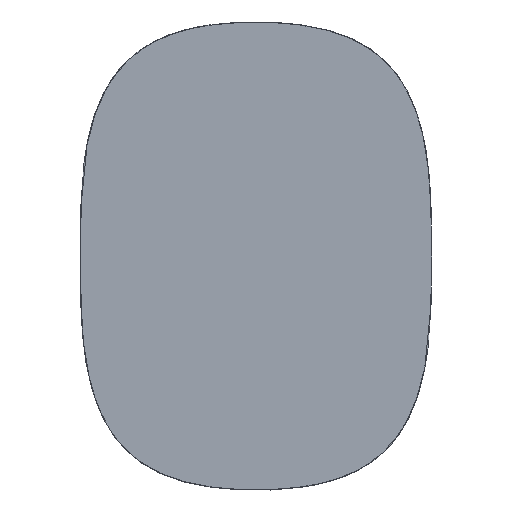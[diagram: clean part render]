
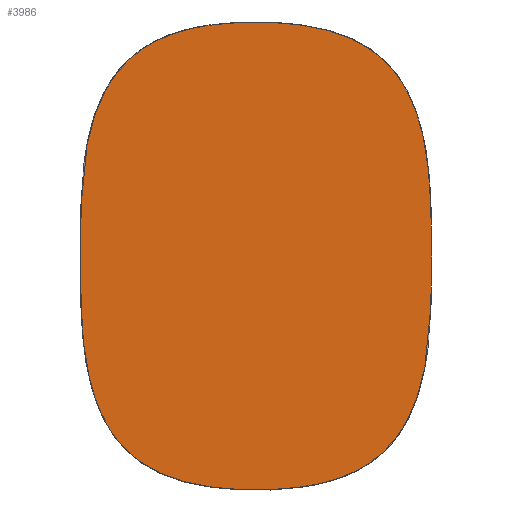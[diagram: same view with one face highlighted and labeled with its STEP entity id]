
A CAD part, front view. The second image highlights one B-rep face of the part: STEP entity #3986.
In plain terms, the highlighted planar face has unit normal (0, -1, 0).
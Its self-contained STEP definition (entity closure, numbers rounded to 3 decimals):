
#70=PLANE('',#4417);
#387=B_SPLINE_CURVE_WITH_KNOTS('',5,(#46723,#46724,#46725,#46726,#46727,
#46728,#46729,#46730,#46731,#46732,#46733,#46734,#46735,#46736,#46737),
 .UNSPECIFIED.,.F.,.F.,(6,3,3,3,6),(854.797,1072.646,1205.11,
1329.972,1417.146),.UNSPECIFIED.);
#388=B_SPLINE_CURVE_WITH_KNOTS('',5,(#46741,#46742,#46743,#46744,#46745,
#46746,#46747,#46748,#46749,#46750,#46751,#46752,#46753,#46754,#46755),
 .UNSPECIFIED.,.F.,.F.,(6,3,3,3,6),(688.86,836.462,963.688,
1114.775,1251.433),.UNSPECIFIED.);
#389=B_SPLINE_CURVE_WITH_KNOTS('',5,(#46759,#46760,#46761,#46762,#46763,
#46764,#46765,#46766,#46767,#46768,#46769,#46770,#46771,#46772,#46773),
 .UNSPECIFIED.,.F.,.F.,(6,3,3,3,6),(854.797,1072.646,1205.11,
1329.972,1417.146),.UNSPECIFIED.);
#390=B_SPLINE_CURVE_WITH_KNOTS('',5,(#46779,#46780,#46781,#46782,#46783,
#46784,#46785,#46786,#46787,#46788,#46789,#46790,#46791,#46792,#46793),
 .UNSPECIFIED.,.F.,.F.,(6,3,3,3,6),(688.86,836.462,963.688,
1114.775,1251.433),.UNSPECIFIED.);
#602=FACE_OUTER_BOUND('',#844,.T.);
#844=EDGE_LOOP('',(#3420,#3421,#3422,#3423,#3424,#3425,#3426,#3427,#3428));
#1371=CIRCLE('',#4418,2999.5);
#1372=CIRCLE('',#4419,569.5);
#1373=CIRCLE('',#4420,2999.5);
#1374=CIRCLE('',#4421,2999.5);
#1375=CIRCLE('',#4422,569.5);
#1732=VERTEX_POINT('',#46721);
#1733=VERTEX_POINT('',#46722);
#1734=VERTEX_POINT('',#46738);
#1735=VERTEX_POINT('',#46740);
#1736=VERTEX_POINT('',#46756);
#1737=VERTEX_POINT('',#46758);
#1738=VERTEX_POINT('',#46774);
#1739=VERTEX_POINT('',#46776);
#1740=VERTEX_POINT('',#46778);
#2298=EDGE_CURVE('',#1732,#1733,#387,.T.);
#2299=EDGE_CURVE('',#1734,#1732,#1371,.T.);
#2300=EDGE_CURVE('',#1735,#1734,#388,.T.);
#2301=EDGE_CURVE('',#1736,#1735,#1372,.T.);
#2302=EDGE_CURVE('',#1737,#1736,#389,.T.);
#2303=EDGE_CURVE('',#1738,#1737,#1373,.T.);
#2304=EDGE_CURVE('',#1739,#1738,#1374,.T.);
#2305=EDGE_CURVE('',#1740,#1739,#390,.T.);
#2306=EDGE_CURVE('',#1733,#1740,#1375,.T.);
#3420=ORIENTED_EDGE('',*,*,#2298,.F.);
#3421=ORIENTED_EDGE('',*,*,#2299,.F.);
#3422=ORIENTED_EDGE('',*,*,#2300,.F.);
#3423=ORIENTED_EDGE('',*,*,#2301,.F.);
#3424=ORIENTED_EDGE('',*,*,#2302,.F.);
#3425=ORIENTED_EDGE('',*,*,#2303,.F.);
#3426=ORIENTED_EDGE('',*,*,#2304,.F.);
#3427=ORIENTED_EDGE('',*,*,#2305,.F.);
#3428=ORIENTED_EDGE('',*,*,#2306,.F.);
#3986=ADVANCED_FACE('',(#602),#70,.F.);
#4417=AXIS2_PLACEMENT_3D('',#46720,#5333,#5334);
#4418=AXIS2_PLACEMENT_3D('',#46739,#5335,#5336);
#4419=AXIS2_PLACEMENT_3D('',#46757,#5337,#5338);
#4420=AXIS2_PLACEMENT_3D('',#46775,#5339,#5340);
#4421=AXIS2_PLACEMENT_3D('',#46777,#5341,#5342);
#4422=AXIS2_PLACEMENT_3D('',#46794,#5343,#5344);
#5333=DIRECTION('center_axis',(0.,1.,0.));
#5334=DIRECTION('ref_axis',(1.,0.,0.));
#5335=DIRECTION('center_axis',(0.,1.,0.));
#5336=DIRECTION('ref_axis',(-1.,0.,0.));
#5337=DIRECTION('center_axis',(0.,1.,0.));
#5338=DIRECTION('ref_axis',(-1.,0.,0.));
#5339=DIRECTION('center_axis',(0.,1.,0.));
#5340=DIRECTION('ref_axis',(-1.,0.,0.));
#5341=DIRECTION('center_axis',(0.,1.,0.));
#5342=DIRECTION('ref_axis',(-1.,0.,0.));
#5343=DIRECTION('center_axis',(0.,1.,0.));
#5344=DIRECTION('ref_axis',(-1.,0.,0.));
#46720=CARTESIAN_POINT('Origin',(0.,-40.5,0.));
#46721=CARTESIAN_POINT('',(-298.15,-40.5,89.985));
#46722=CARTESIAN_POINT('',(-74.934,-40.5,394.549));
#46723=CARTESIAN_POINT('Ctrl Pts',(-298.15,-40.5,89.985));
#46724=CARTESIAN_POINT('Ctrl Pts',(-297.081,-40.5,125.606));
#46725=CARTESIAN_POINT('Ctrl Pts',(-294.276,-40.5,160.586));
#46726=CARTESIAN_POINT('Ctrl Pts',(-289.225,-40.5,194.894));
#46727=CARTESIAN_POINT('Ctrl Pts',(-276.126,-40.5,247.276));
#46728=CARTESIAN_POINT('Ctrl Pts',(-252.806,-40.5,292.757));
#46729=CARTESIAN_POINT('Ctrl Pts',(-242.357,-40.5,308.696));
#46730=CARTESIAN_POINT('Ctrl Pts',(-218.684,-40.5,336.623));
#46731=CARTESIAN_POINT('Ctrl Pts',(-189.061,-40.5,358.122));
#46732=CARTESIAN_POINT('Ctrl Pts',(-173.417,-40.5,366.924));
#46733=CARTESIAN_POINT('Ctrl Pts',(-145.112,-40.5,379.273));
#46734=CARTESIAN_POINT('Ctrl Pts',(-114.484,-40.5,387.654));
#46735=CARTESIAN_POINT('Ctrl Pts',(-101.557,-40.5,390.487));
#46736=CARTESIAN_POINT('Ctrl Pts',(-88.357,-40.5,392.767));
#46737=CARTESIAN_POINT('Ctrl Pts',(-74.934,-40.5,394.548));
#46738=CARTESIAN_POINT('',(-298.15,-40.5,-89.985));
#46739=CARTESIAN_POINT('Origin',(2700.,-40.5,0.));
#46740=CARTESIAN_POINT('',(-74.934,-40.5,-394.549));
#46741=CARTESIAN_POINT('Ctrl Pts',(-74.934,-40.5,-394.549));
#46742=CARTESIAN_POINT('Ctrl Pts',(-97.605,-40.5,-391.539));
#46743=CARTESIAN_POINT('Ctrl Pts',(-119.658,-40.5,-387.108));
#46744=CARTESIAN_POINT('Ctrl Pts',(-140.927,-40.5,-380.971));
#46745=CARTESIAN_POINT('Ctrl Pts',(-178.209,-40.5,-365.745));
#46746=CARTESIAN_POINT('Ctrl Pts',(-210.039,-40.5,-343.036));
#46747=CARTESIAN_POINT('Ctrl Pts',(-223.339,-40.5,-330.874));
#46748=CARTESIAN_POINT('Ctrl Pts',(-249.077,-40.5,-300.836));
#46749=CARTESIAN_POINT('Ctrl Pts',(-267.54,-40.5,-264.55));
#46750=CARTESIAN_POINT('Ctrl Pts',(-275.5,-40.5,-243.363));
#46751=CARTESIAN_POINT('Ctrl Pts',(-287.352,-40.5,-201.188));
#46752=CARTESIAN_POINT('Ctrl Pts',(-293.958,-40.5,-156.262));
#46753=CARTESIAN_POINT('Ctrl Pts',(-296.123,-40.5,-134.472));
#46754=CARTESIAN_POINT('Ctrl Pts',(-297.479,-40.5,-112.352));
#46755=CARTESIAN_POINT('Ctrl Pts',(-298.15,-40.5,-89.985));
#46756=CARTESIAN_POINT('',(74.934,-40.5,-394.549));
#46757=CARTESIAN_POINT('Origin',(0.,-40.5,170.));
#46758=CARTESIAN_POINT('',(298.15,-40.5,-89.985));
#46759=CARTESIAN_POINT('Ctrl Pts',(298.15,-40.5,-89.985));
#46760=CARTESIAN_POINT('Ctrl Pts',(297.081,-40.5,-125.606));
#46761=CARTESIAN_POINT('Ctrl Pts',(294.276,-40.5,-160.586));
#46762=CARTESIAN_POINT('Ctrl Pts',(289.225,-40.5,-194.894));
#46763=CARTESIAN_POINT('Ctrl Pts',(276.126,-40.5,-247.276));
#46764=CARTESIAN_POINT('Ctrl Pts',(252.806,-40.5,-292.757));
#46765=CARTESIAN_POINT('Ctrl Pts',(242.357,-40.5,-308.696));
#46766=CARTESIAN_POINT('Ctrl Pts',(218.684,-40.5,-336.623));
#46767=CARTESIAN_POINT('Ctrl Pts',(189.061,-40.5,-358.122));
#46768=CARTESIAN_POINT('Ctrl Pts',(173.417,-40.5,-366.924));
#46769=CARTESIAN_POINT('Ctrl Pts',(145.112,-40.5,-379.273));
#46770=CARTESIAN_POINT('Ctrl Pts',(114.484,-40.5,-387.654));
#46771=CARTESIAN_POINT('Ctrl Pts',(101.557,-40.5,-390.487));
#46772=CARTESIAN_POINT('Ctrl Pts',(88.357,-40.5,-392.767));
#46773=CARTESIAN_POINT('Ctrl Pts',(74.934,-40.5,-394.548));
#46774=CARTESIAN_POINT('',(299.5,-40.5,0.));
#46775=CARTESIAN_POINT('Origin',(-2700.,-40.5,0.));
#46776=CARTESIAN_POINT('',(298.15,-40.5,89.985));
#46777=CARTESIAN_POINT('Origin',(-2700.,-40.5,0.));
#46778=CARTESIAN_POINT('',(74.934,-40.5,394.549));
#46779=CARTESIAN_POINT('Ctrl Pts',(74.934,-40.5,394.549));
#46780=CARTESIAN_POINT('Ctrl Pts',(97.605,-40.5,391.539));
#46781=CARTESIAN_POINT('Ctrl Pts',(119.658,-40.5,387.108));
#46782=CARTESIAN_POINT('Ctrl Pts',(140.927,-40.5,380.971));
#46783=CARTESIAN_POINT('Ctrl Pts',(178.209,-40.5,365.745));
#46784=CARTESIAN_POINT('Ctrl Pts',(210.039,-40.5,343.036));
#46785=CARTESIAN_POINT('Ctrl Pts',(223.339,-40.5,330.874));
#46786=CARTESIAN_POINT('Ctrl Pts',(249.077,-40.5,300.836));
#46787=CARTESIAN_POINT('Ctrl Pts',(267.54,-40.5,264.55));
#46788=CARTESIAN_POINT('Ctrl Pts',(275.5,-40.5,243.363));
#46789=CARTESIAN_POINT('Ctrl Pts',(287.352,-40.5,201.188));
#46790=CARTESIAN_POINT('Ctrl Pts',(293.958,-40.5,156.262));
#46791=CARTESIAN_POINT('Ctrl Pts',(296.123,-40.5,134.472));
#46792=CARTESIAN_POINT('Ctrl Pts',(297.479,-40.5,112.352));
#46793=CARTESIAN_POINT('Ctrl Pts',(298.15,-40.5,89.985));
#46794=CARTESIAN_POINT('Origin',(0.,-40.5,-170.));
